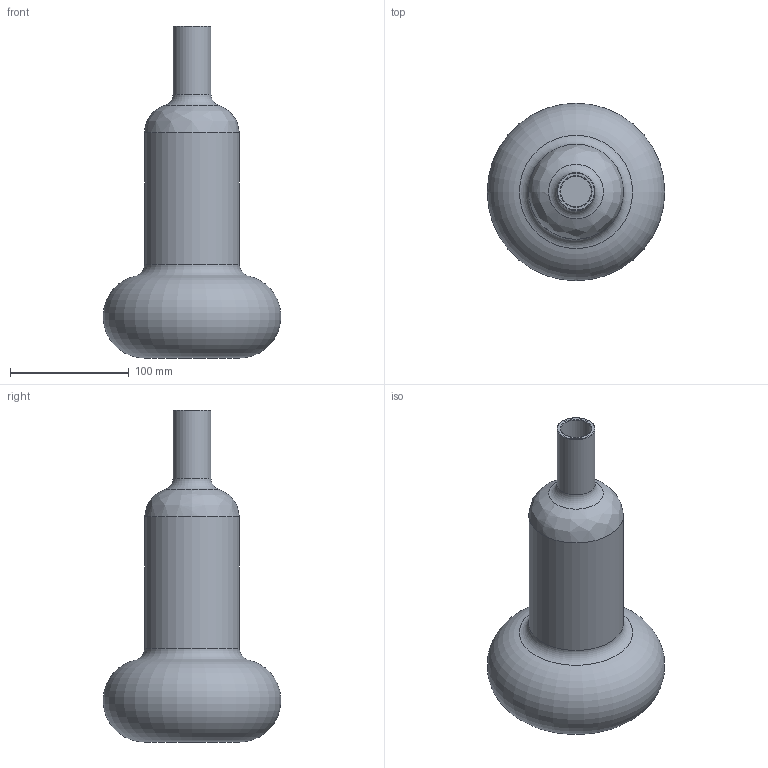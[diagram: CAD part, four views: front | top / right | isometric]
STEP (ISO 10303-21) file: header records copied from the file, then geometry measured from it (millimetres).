
FILE_DESCRIPTION( ( 'Unknown' ), '1' );
FILE_NAME( 'C:/Users/Bariani_F/Desktop/DANESE FRANCESCO/DANESE SPACE 2020/GIULIO IACCHETTI/DECANTER/CARACALLA 3D.stp', 'Unknown', ( 'Unknown' ), ( 'Unknown' ), 'PSStep 14.0', 'Unknown', ' ' );
FILE_SCHEMA( ( 'AUTOMOTIVE_DESIGN { 1 0 10303 214 1 1 1 1 }' ) );
Length unit declared in the file: millimetre
Products named in the file (1): 1
Bounding box: 149.79 x 149.79 x 280 mm (x, y, z)
Volume: 261681.9 mm3; surface area: 174671.6 mm2
Topology: 1 solids, 1 shells, 17 faces, 35 edges, 21 vertices
Faces by surface type: torus 8, cylinder 4, plane 3, bspline 2
Full cylindrical faces by diameter (mm): 26 x1, 32 x1, 74 x1, 80 x1
Entity records: 532 total; most frequent: CARTESIAN_POINT 104, DIRECTION 64, AXIS2_PLACEMENT_3D 32, EDGE_LOOP 32, ORIENTED_EDGE 32, FACE_OUTER_BOUND 31, STYLED_ITEM 17, PRESENTATION_STYLE_ASSIGNMENT 17
